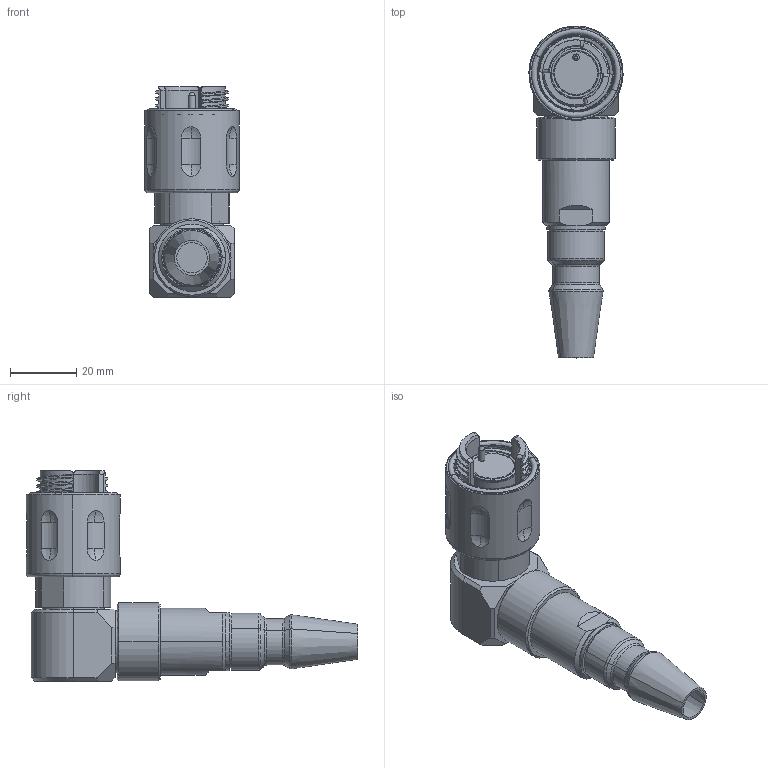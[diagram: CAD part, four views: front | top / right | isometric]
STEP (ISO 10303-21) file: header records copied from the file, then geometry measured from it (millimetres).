
FILE_DESCRIPTION (( 'STEP AP214' ), '1' );
FILE_NAME ('QMINI90S-PEXX-XXXX-S105.STEP', '2025-05-22T23:21:27', ( '' ), ( '' ), 'SwSTEP 2.0', 'SolidWorks 2024', '' );
FILE_SCHEMA (( 'AUTOMOTIVE_DESIGN' ));
Length unit declared in the file: inch
Products named in the file (1): QMINI90S-PEXX-XXXX-S105
Bounding box: 28.34 x 99.78 x 63.3 mm (x, y, z)
Volume: 45465 mm3; surface area: 17389.1 mm2
Topology: 1 solids, 5 shells, 334 faces, 807 edges, 510 vertices
Faces by surface type: cylinder 117, plane 86, cone 55, torus 32, sphere 24, bspline 20
Entity records: 12456 total; most frequent: CARTESIAN_POINT 4805, ORIENTED_EDGE 1614, DIRECTION 1592, EDGE_CURVE 807, AXIS2_PLACEMENT_3D 641, VERTEX_POINT 510, EDGE_LOOP 369, ADVANCED_FACE 334
